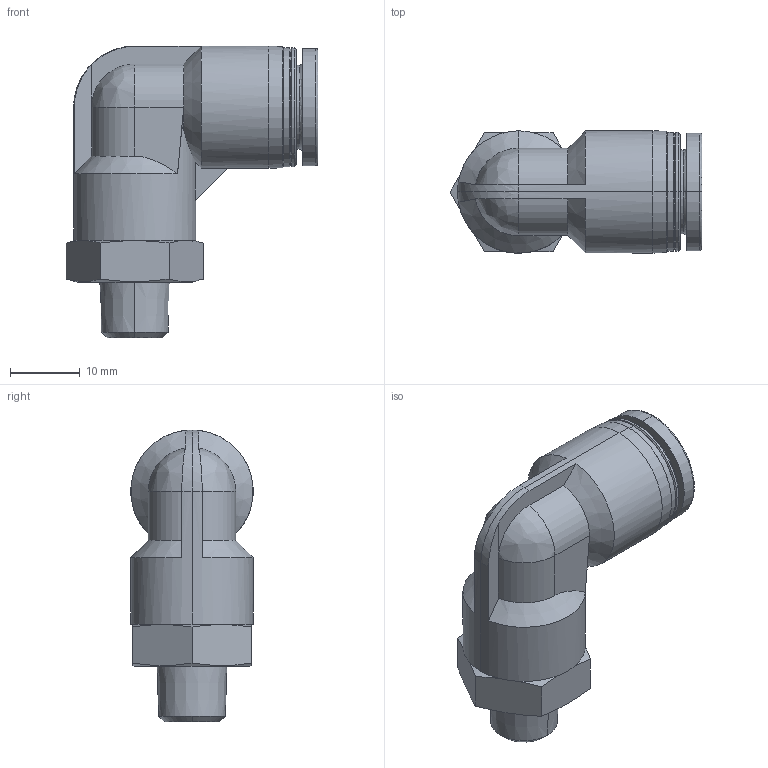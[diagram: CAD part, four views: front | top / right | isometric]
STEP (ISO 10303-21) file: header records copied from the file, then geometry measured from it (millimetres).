
FILE_DESCRIPTION (( 'STEP AP214' ), '1' );
FILE_NAME ('KQ2L10-01AS.STEP', '2023-03-06T09:49:10', ( 'Windows User' ), ( 'P R C' ), 'SwSTEP 2.0', 'SolidWorks 2019', '' );
FILE_SCHEMA (( 'AUTOMOTIVE_DESIGN' ));
Length unit declared in the file: millimetre
Products named in the file (1): KQ2L10-01AS
Bounding box: 36.02 x 17.5 x 41.75 mm (x, y, z)
Volume: 9445.8 mm3; surface area: 4350.9 mm2
Topology: 1 solids, 1 shells, 77 faces, 183 edges, 112 vertices
Faces by surface type: plane 25, cone 24, cylinder 20, bspline 8
Entity records: 2804 total; most frequent: CARTESIAN_POINT 1073, ORIENTED_EDGE 362, DIRECTION 348, EDGE_CURVE 181, AXIS2_PLACEMENT_3D 143, VERTEX_POINT 112, EDGE_LOOP 83, ADVANCED_FACE 77
